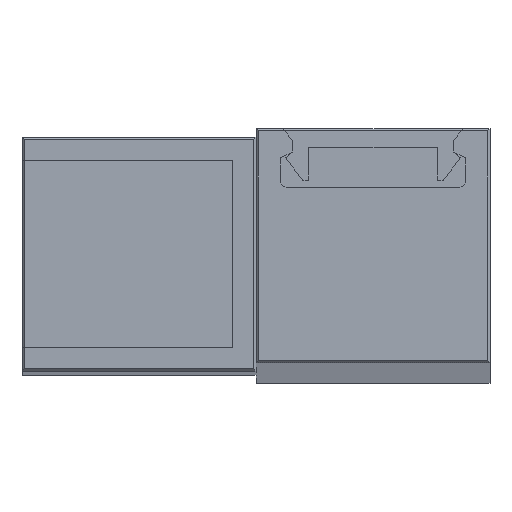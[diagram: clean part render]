
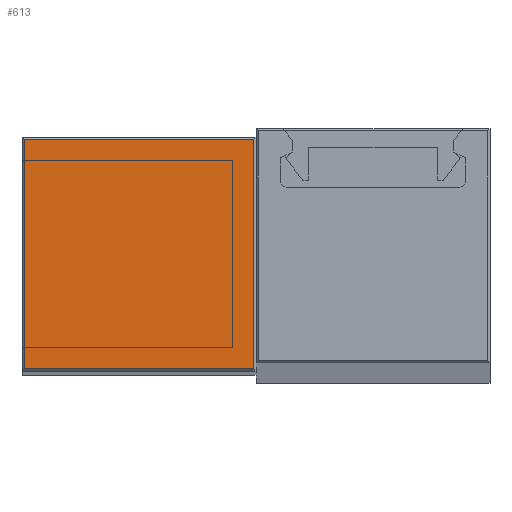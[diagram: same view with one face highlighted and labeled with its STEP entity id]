
A CAD part, top view. The second image highlights one B-rep face of the part: STEP entity #613.
In plain terms, the highlighted planar face has unit normal (0, 0, 1).
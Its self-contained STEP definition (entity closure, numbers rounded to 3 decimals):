
#20 = VERTEX_POINT ( 'NONE', #1928 ) ;
#98 = VECTOR ( 'NONE', #762, 1000. ) ;
#102 = FACE_OUTER_BOUND ( 'NONE', #368, .T. ) ;
#165 = LINE ( 'NONE', #1741, #98 ) ;
#241 = CARTESIAN_POINT ( 'NONE',  ( -10.2, -9.797, 92.002 ) ) ;
#298 = ORIENTED_EDGE ( 'NONE', *, *, #2328, .T. ) ;
#315 = VECTOR ( 'NONE', #406, 1000. ) ;
#347 = EDGE_CURVE ( 'NONE', #1917, #657, #1660, .T. ) ;
#368 = EDGE_LOOP ( 'NONE', ( #1298, #298, #1016, #875 ) ) ;
#406 = DIRECTION ( 'NONE',  ( 0., -1., 0. ) ) ;
#435 = LINE ( 'NONE', #1625, #2334 ) ;
#613 = ADVANCED_FACE ( 'NONE', ( #102 ), #1413, .T. ) ;
#657 = VERTEX_POINT ( 'NONE', #241 ) ;
#762 = DIRECTION ( 'NONE',  ( 0., 1., 0. ) ) ;
#792 = CARTESIAN_POINT ( 'NONE',  ( -29.8, 9.803, 91.998 ) ) ;
#875 = ORIENTED_EDGE ( 'NONE', *, *, #347, .T. ) ;
#1008 = EDGE_CURVE ( 'NONE', #657, #20, #165, .T. ) ;
#1016 = ORIENTED_EDGE ( 'NONE', *, *, #1225, .T. ) ;
#1167 = LINE ( 'NONE', #1569, #315 ) ;
#1218 = AXIS2_PLACEMENT_3D ( 'NONE', #1612, #1224, #2406 ) ;
#1224 = DIRECTION ( 'NONE',  ( 0., 0., 1. ) ) ;
#1225 = EDGE_CURVE ( 'NONE', #2184, #1917, #1167, .T. ) ;
#1265 = CARTESIAN_POINT ( 'NONE',  ( -29.8, -9.797, 92.002 ) ) ;
#1297 = CARTESIAN_POINT ( 'NONE',  ( -10., -9.797, 92.002 ) ) ;
#1298 = ORIENTED_EDGE ( 'NONE', *, *, #1008, .T. ) ;
#1413 = PLANE ( 'NONE',  #1218 ) ;
#1509 = DIRECTION ( 'NONE',  ( 1., 0., 0. ) ) ;
#1569 = CARTESIAN_POINT ( 'NONE',  ( -29.8, -9.997, 92.002 ) ) ;
#1612 = CARTESIAN_POINT ( 'NONE',  ( -20., 0.003, 92. ) ) ;
#1625 = CARTESIAN_POINT ( 'NONE',  ( -30., 9.803, 91.998 ) ) ;
#1660 = LINE ( 'NONE', #1297, #2403 ) ;
#1741 = CARTESIAN_POINT ( 'NONE',  ( -10.2, 10.003, 91.998 ) ) ;
#1826 = DIRECTION ( 'NONE',  ( -1., 0., 0. ) ) ;
#1917 = VERTEX_POINT ( 'NONE', #1265 ) ;
#1928 = CARTESIAN_POINT ( 'NONE',  ( -10.2, 9.803, 91.998 ) ) ;
#2184 = VERTEX_POINT ( 'NONE', #792 ) ;
#2328 = EDGE_CURVE ( 'NONE', #20, #2184, #435, .T. ) ;
#2334 = VECTOR ( 'NONE', #1826, 1000. ) ;
#2403 = VECTOR ( 'NONE', #1509, 1000. ) ;
#2406 = DIRECTION ( 'NONE',  ( 1., 0., 0. ) ) ;
